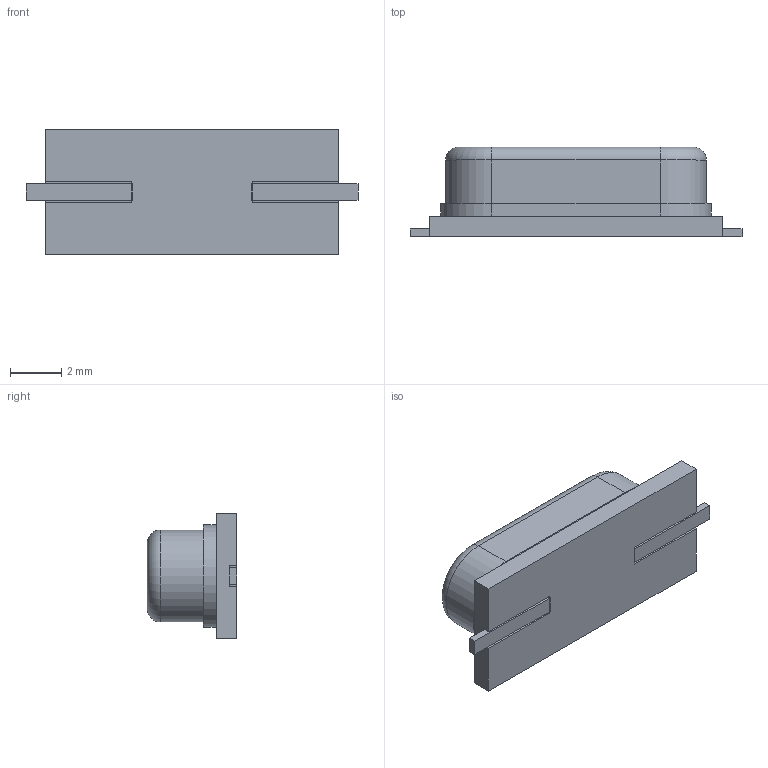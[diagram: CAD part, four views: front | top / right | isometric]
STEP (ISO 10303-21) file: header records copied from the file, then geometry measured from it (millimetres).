
FILE_DESCRIPTION (( 'STEP AP214' ), '1' );
FILE_NAME ( 'XTAL1150X490X350D1300DD468.STEP', '2014-04-11T12:31:19', ( '' ), ( '' ), 'FPX Expert 2013', 'PCB Libraries', '' );
FILE_SCHEMA (( 'AUTOMOTIVE_DESIGN' ));
Length unit declared in the file: millimetre
Products named in the file (1): XTAL1150X490X350D1300DD468
Bounding box: 13 x 3.5 x 4.9 mm (x, y, z)
Volume: 137.9 mm3; surface area: 221 mm2
Topology: 3 solids, 3 shells, 40 faces, 92 edges, 60 vertices
Faces by surface type: plane 32, cylinder 6, torus 2
Entity records: 1293 total; most frequent: CARTESIAN_POINT 193, DIRECTION 188, ORIENTED_EDGE 184, EDGE_CURVE 92, VECTOR 78, LINE 78, VERTEX_POINT 60, AXIS2_PLACEMENT_3D 55
